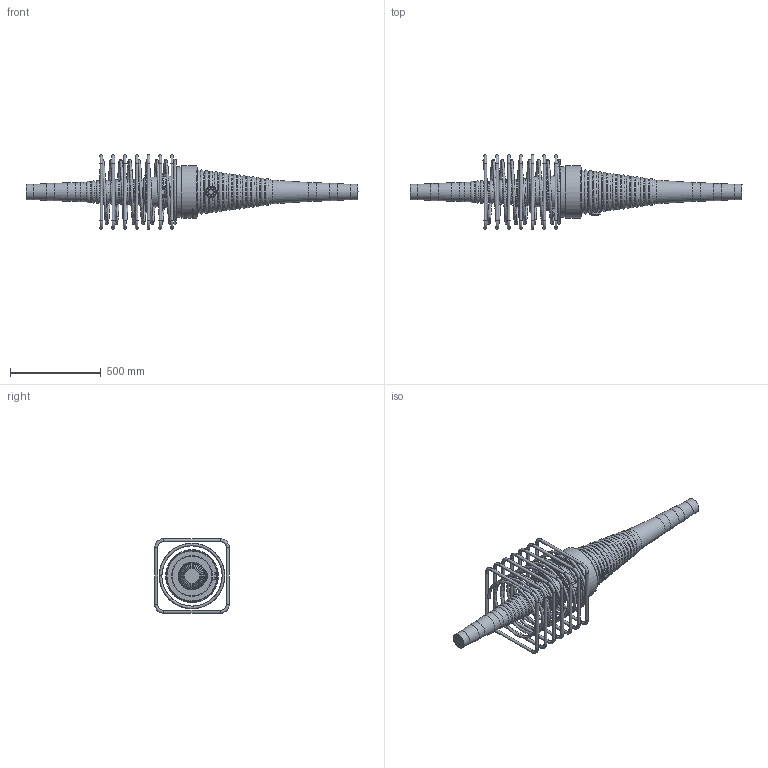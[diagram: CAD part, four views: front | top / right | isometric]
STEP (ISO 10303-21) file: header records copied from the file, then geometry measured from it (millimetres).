
FILE_DESCRIPTION(/* description */ (''),/* implementation_level */ '2;1');
FILE_NAME(/* name */ 'Z:\04 Publications\05 Give-out\BBR\6_3D_Models\BBR VT CONA CMI\BBR VT CONA CMI BT\01906\BBR VT CONA CMI BT 1906_Couler K Assembly_CS-34,28.stp',/* time_stamp */ '2017-05-05T09:35:44+02:00',/* author */ ('IP'),/* organization */ (''),/* preprocessor_version */ 'ST-DEVELOPER v16.1',/* originating_system */ 'Autodesk Inventor 2016',/* authorisation */ '');
FILE_SCHEMA (('AUTOMOTIVE_DESIGN { 1 0 10303 214 3 1 1 }'));
Length unit declared in the file: millimetre
Products named in the file (1): BBR VT CONA CMI BT 1906_Couler K Assembly_CS-34,28
Bounding box: 1830.13 x 410 x 410 mm (x, y, z)
Volume: 38239479.7 mm3; surface area: 1966064.3 mm2
Topology: 9 solids, 10 shells, 996 faces, 2524 edges, 1596 vertices
Faces by surface type: bspline 395, plane 306, torus 136, cylinder 115, cone 34, sphere 10
Full cylindrical faces by diameter (mm): 16 x28, 34 x2, 57 x2, 84 x2, 94 x2, 104 x2, 164 x1, 218 x1, 223.017 x1, 273 x1, 280 x1, 286 x1, 290 x1
Entity records: 40727 total; most frequent: CARTESIAN_POINT 19505, ORIENTED_EDGE 4618, DIRECTION 3344, EDGE_CURVE 2309, VERTEX_POINT 1584, EDGE_LOOP 1263, AXIS2_PLACEMENT_3D 1235, FACE_OUTER_BOUND 996
